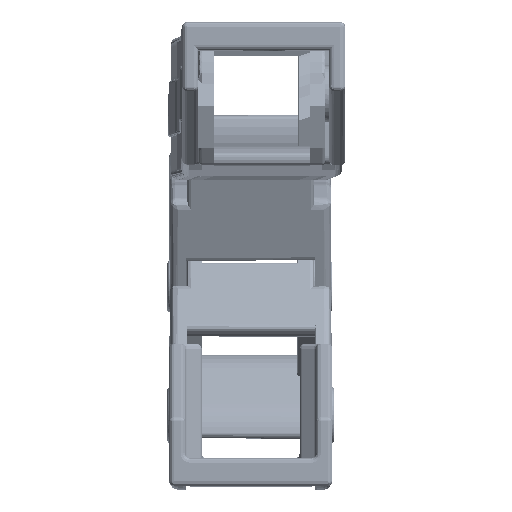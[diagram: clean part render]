
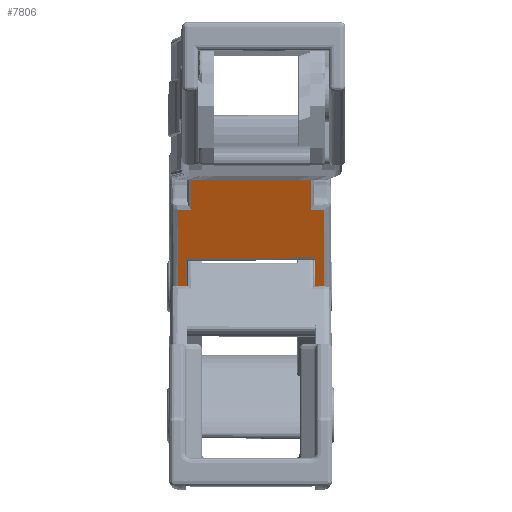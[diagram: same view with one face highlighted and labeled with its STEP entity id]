
A CAD part, top view. The second image highlights one B-rep face of the part: STEP entity #7806.
In plain terms, the highlighted planar face has unit normal (0.007, -0.375, 0.927).
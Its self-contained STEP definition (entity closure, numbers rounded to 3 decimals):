
#4703=PLANE('',#122675);
#7806=ADVANCED_FACE('',(#17576),#4703,.T.);
#17576=FACE_OUTER_BOUND('',#24198,.T.);
#24198=EDGE_LOOP('',(#52440,#52441,#52442,#52443,#52444,#52445,#52446,#52447,
#52448,#52449,#52450,#52451,#52452,#52453,#52454,#52455));
#31925=LINE('',#175466,#41360);
#31926=LINE('',#175470,#41361);
#31927=LINE('',#175489,#41362);
#31928=LINE('',#175491,#41363);
#31929=LINE('',#175493,#41364);
#31939=LINE('',#175525,#41374);
#31967=LINE('',#175601,#41402);
#31973=LINE('',#175615,#41408);
#31985=LINE('',#175646,#41420);
#31986=LINE('',#175648,#41421);
#31987=LINE('',#175650,#41422);
#31988=LINE('',#175652,#41423);
#31989=LINE('',#175654,#41424);
#31990=LINE('',#175656,#41425);
#31991=LINE('',#175658,#41426);
#31992=LINE('',#175660,#41427);
#41360=VECTOR('',#137355,1.);
#41361=VECTOR('',#137360,1.);
#41362=VECTOR('',#137363,1.);
#41363=VECTOR('',#137366,1.);
#41364=VECTOR('',#137369,1.);
#41374=VECTOR('',#137397,1.);
#41402=VECTOR('',#137469,1.);
#41408=VECTOR('',#137481,1.);
#41420=VECTOR('',#137513,1.);
#41421=VECTOR('',#137516,1.);
#41422=VECTOR('',#137517,1.);
#41423=VECTOR('',#137518,1.);
#41424=VECTOR('',#137519,1.);
#41425=VECTOR('',#137520,1.);
#41426=VECTOR('',#137521,1.);
#41427=VECTOR('',#137522,1.);
#52440=ORIENTED_EDGE('',*,*,#98285,.F.);
#52441=ORIENTED_EDGE('',*,*,#98347,.F.);
#52442=ORIENTED_EDGE('',*,*,#98348,.T.);
#52443=ORIENTED_EDGE('',*,*,#98349,.T.);
#52444=ORIENTED_EDGE('',*,*,#98350,.T.);
#52445=ORIENTED_EDGE('',*,*,#98351,.F.);
#52446=ORIENTED_EDGE('',*,*,#98352,.T.);
#52447=ORIENTED_EDGE('',*,*,#98353,.F.);
#52448=ORIENTED_EDGE('',*,*,#98354,.T.);
#52449=ORIENTED_EDGE('',*,*,#98331,.T.);
#52450=ORIENTED_EDGE('',*,*,#98324,.F.);
#52451=ORIENTED_EDGE('',*,*,#98268,.T.);
#52452=ORIENTED_EDGE('',*,*,#98267,.F.);
#52453=ORIENTED_EDGE('',*,*,#98266,.F.);
#52454=ORIENTED_EDGE('',*,*,#98264,.T.);
#52455=ORIENTED_EDGE('',*,*,#98262,.F.);
#86587=VERTEX_POINT('',#175255);
#86596=VERTEX_POINT('',#175338);
#86599=VERTEX_POINT('',#175399);
#86613=VERTEX_POINT('',#175467);
#86614=VERTEX_POINT('',#175471);
#86615=VERTEX_POINT('',#175494);
#86627=VERTEX_POINT('',#175524);
#86654=VERTEX_POINT('',#175602);
#86659=VERTEX_POINT('',#175616);
#86667=VERTEX_POINT('',#175645);
#86668=VERTEX_POINT('',#175649);
#86669=VERTEX_POINT('',#175651);
#86670=VERTEX_POINT('',#175653);
#86671=VERTEX_POINT('',#175655);
#86672=VERTEX_POINT('',#175657);
#86673=VERTEX_POINT('',#175659);
#98262=EDGE_CURVE('',#86613,#86587,#31925,.T.);
#98264=EDGE_CURVE('',#86614,#86587,#31926,.T.);
#98266=EDGE_CURVE('',#86614,#86596,#31927,.T.);
#98267=EDGE_CURVE('',#86596,#86599,#31928,.T.);
#98268=EDGE_CURVE('',#86615,#86599,#31929,.T.);
#98285=EDGE_CURVE('',#86627,#86613,#31939,.T.);
#98324=EDGE_CURVE('',#86615,#86654,#31967,.T.);
#98331=EDGE_CURVE('',#86659,#86654,#31973,.T.);
#98347=EDGE_CURVE('',#86667,#86627,#31985,.T.);
#98348=EDGE_CURVE('',#86667,#86668,#31986,.T.);
#98349=EDGE_CURVE('',#86668,#86669,#31987,.T.);
#98350=EDGE_CURVE('',#86669,#86670,#31988,.T.);
#98351=EDGE_CURVE('',#86671,#86670,#31989,.T.);
#98352=EDGE_CURVE('',#86671,#86672,#31990,.T.);
#98353=EDGE_CURVE('',#86673,#86672,#31991,.T.);
#98354=EDGE_CURVE('',#86673,#86659,#31992,.T.);
#122675=AXIS2_PLACEMENT_3D('',#175661,#137523,#137524);
#137355=DIRECTION('',(1.,0.003,-0.006));
#137360=DIRECTION('',(0.,0.927,0.375));
#137363=DIRECTION('',(1.,0.003,-0.006));
#137366=DIRECTION('',(0.,-0.927,-0.375));
#137369=DIRECTION('',(1.,0.003,-0.006));
#137397=DIRECTION('',(0.,0.927,0.375));
#137469=DIRECTION('',(0.,0.927,0.375));
#137481=DIRECTION('',(1.,0.003,-0.006));
#137513=DIRECTION('',(1.,0.003,-0.006));
#137516=DIRECTION('',(0.,0.927,0.375));
#137517=DIRECTION('',(-1.,-0.003,0.006));
#137518=DIRECTION('',(0.,-0.927,-0.375));
#137519=DIRECTION('',(1.,0.003,-0.006));
#137520=DIRECTION('',(0.,-0.927,-0.375));
#137521=DIRECTION('',(-1.,-0.003,0.006));
#137522=DIRECTION('',(0.,0.927,0.375));
#137523=DIRECTION('',(0.007,-0.375,0.927));
#137524=DIRECTION('',(0.,0.927,0.375));
#175255=CARTESIAN_POINT('',(53.818,-789.1,171.623));
#175338=CARTESIAN_POINT('',(55.226,-798.239,167.912));
#175399=CARTESIAN_POINT('',(55.226,-809.988,163.155));
#175466=CARTESIAN_POINT('',(52.561,-789.103,171.63));
#175467=CARTESIAN_POINT('',(52.561,-789.103,171.63));
#175470=CARTESIAN_POINT('',(53.818,-788.998,171.664));
#175471=CARTESIAN_POINT('',(53.818,-798.243,167.921));
#175489=CARTESIAN_POINT('',(53.818,-798.243,167.921));
#175491=CARTESIAN_POINT('',(55.226,-798.239,167.912));
#175493=CARTESIAN_POINT('',(54.321,-809.991,163.16));
#175494=CARTESIAN_POINT('',(54.321,-809.991,163.16));
#175524=CARTESIAN_POINT('',(52.561,-794.749,169.344));
#175525=CARTESIAN_POINT('',(52.561,-794.749,169.344));
#175601=CARTESIAN_POINT('',(54.321,-809.991,163.16));
#175602=CARTESIAN_POINT('',(54.321,-803.324,165.86));
#175615=CARTESIAN_POINT('',(35.58,-803.371,165.977));
#175616=CARTESIAN_POINT('',(40.58,-803.358,165.946));
#175645=CARTESIAN_POINT('',(42.34,-794.775,169.408));
#175646=CARTESIAN_POINT('',(37.34,-794.788,169.439));
#175648=CARTESIAN_POINT('',(42.34,-794.775,169.408));
#175649=CARTESIAN_POINT('',(42.34,-789.129,171.694));
#175650=CARTESIAN_POINT('',(42.34,-789.129,171.694));
#175651=CARTESIAN_POINT('',(41.083,-789.132,171.702));
#175652=CARTESIAN_POINT('',(41.083,-789.132,171.702));
#175653=CARTESIAN_POINT('',(41.083,-798.275,168.));
#175654=CARTESIAN_POINT('',(39.674,-798.279,168.009));
#175655=CARTESIAN_POINT('',(39.674,-798.279,168.009));
#175656=CARTESIAN_POINT('',(39.674,-798.279,168.009));
#175657=CARTESIAN_POINT('',(39.674,-810.028,163.252));
#175658=CARTESIAN_POINT('',(40.58,-810.025,163.246));
#175659=CARTESIAN_POINT('',(40.58,-810.025,163.246));
#175660=CARTESIAN_POINT('',(40.58,-810.025,163.246));
#175661=CARTESIAN_POINT('',(57.561,-809.983,163.14));
